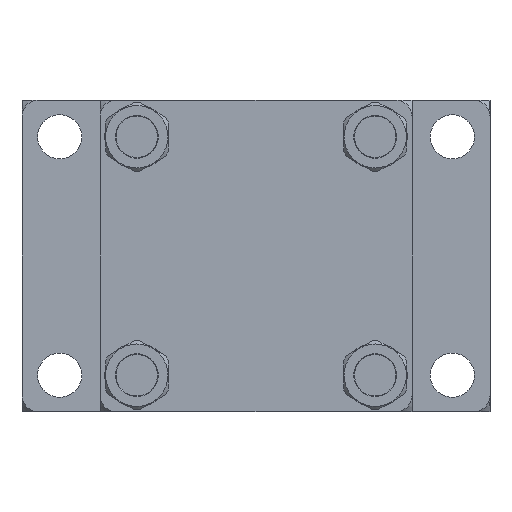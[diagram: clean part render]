
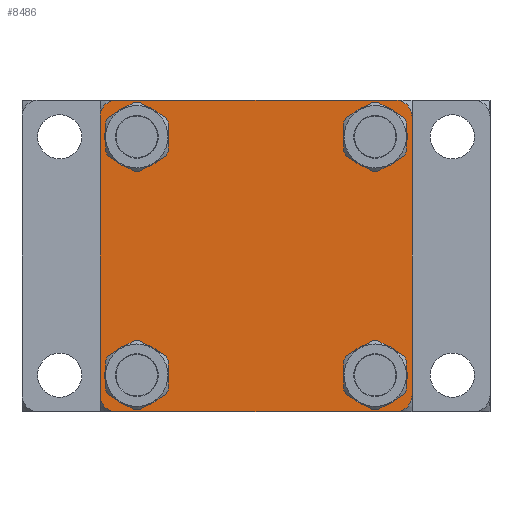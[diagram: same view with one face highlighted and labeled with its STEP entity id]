
A CAD part, left-side view. The second image highlights one B-rep face of the part: STEP entity #8486.
In plain terms, the highlighted planar face has unit normal (-1, 0, 0).
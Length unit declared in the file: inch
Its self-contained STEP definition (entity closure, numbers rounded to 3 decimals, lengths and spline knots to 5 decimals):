
#1 = VERTEX_POINT ( 'NONE', #21994 ) ;
#827 = CIRCLE ( 'NONE', #56933, 0.4 ) ;
#997 = CARTESIAN_POINT ( 'NONE',  ( -11.625, 2.363, -2.865 ) ) ;
#1723 = CARTESIAN_POINT ( 'NONE',  ( -11.625, -2.865, -2.865 ) ) ;
#2094 = VERTEX_POINT ( 'NONE', #997 ) ;
#2440 = AXIS2_PLACEMENT_3D ( 'NONE', #85569, #78416, #13208 ) ;
#2477 = CIRCLE ( 'NONE', #46406, 0.4 ) ;
#2656 = CIRCLE ( 'NONE', #77089, 0.502 ) ;
#2932 = DIRECTION ( 'NONE',  ( 0., 1., 0. ) ) ;
#3418 = ORIENTED_EDGE ( 'NONE', *, *, #86792, .T. ) ;
#3536 = VERTEX_POINT ( 'NONE', #90401 ) ;
#4714 = EDGE_LOOP ( 'NONE', ( #34019, #35225 ) ) ;
#4773 = VERTEX_POINT ( 'NONE', #12225 ) ;
#5357 = VECTOR ( 'NONE', #20439, 39.37008 ) ;
#6870 = DIRECTION ( 'NONE',  ( 0., 1., 0. ) ) ;
#7908 = VECTOR ( 'NONE', #75093, 39.37008 ) ;
#8486 = ADVANCED_FACE ( 'NONE', ( #91985, #83411, #68532, #76236, #11527 ), #18183, .F. ) ;
#8594 = CARTESIAN_POINT ( 'NONE',  ( -11.625, -2.865, 2.865 ) ) ;
#9426 = VERTEX_POINT ( 'NONE', #9838 ) ;
#9838 = CARTESIAN_POINT ( 'NONE',  ( -11.625, -3.75, -3.35 ) ) ;
#9864 = ORIENTED_EDGE ( 'NONE', *, *, #89850, .F. ) ;
#10107 = CARTESIAN_POINT ( 'NONE',  ( -11.625, -2.865, -2.865 ) ) ;
#10823 = VERTEX_POINT ( 'NONE', #11971 ) ;
#11198 = CIRCLE ( 'NONE', #71889, 0.502 ) ;
#11336 = DIRECTION ( 'NONE',  ( 1., 0., 0. ) ) ;
#11466 = VERTEX_POINT ( 'NONE', #26655 ) ;
#11527 = FACE_OUTER_BOUND ( 'NONE', #48115, .T. ) ;
#11915 = EDGE_CURVE ( 'NONE', #86578, #10823, #86295, .T. ) ;
#11971 = CARTESIAN_POINT ( 'NONE',  ( -11.625, -3.367, 2.865 ) ) ;
#12225 = CARTESIAN_POINT ( 'NONE',  ( -11.625, -3.35, 3.75 ) ) ;
#12866 = CARTESIAN_POINT ( 'NONE',  ( -11.625, 3.75, 3.75 ) ) ;
#13208 = DIRECTION ( 'NONE',  ( 0., -1., 0. ) ) ;
#13339 = CARTESIAN_POINT ( 'NONE',  ( -11.625, -3.367, -2.865 ) ) ;
#16107 = EDGE_LOOP ( 'NONE', ( #47939, #93301 ) ) ;
#16969 = CIRCLE ( 'NONE', #48700, 0.502 ) ;
#17066 = CARTESIAN_POINT ( 'NONE',  ( -11.625, 3.35, 3.75 ) ) ;
#17208 = ORIENTED_EDGE ( 'NONE', *, *, #82318, .F. ) ;
#18152 = DIRECTION ( 'NONE',  ( 1., 0., 0. ) ) ;
#18183 = PLANE ( 'NONE',  #53282 ) ;
#18515 = VERTEX_POINT ( 'NONE', #13339 ) ;
#19405 = CARTESIAN_POINT ( 'NONE',  ( -11.625, 2.865, 2.865 ) ) ;
#19538 = LINE ( 'NONE', #21389, #55102 ) ;
#19735 = EDGE_CURVE ( 'NONE', #3536, #18515, #82826, .T. ) ;
#19924 = VECTOR ( 'NONE', #51082, 39.37008 ) ;
#20439 = DIRECTION ( 'NONE',  ( 0., -1., 0. ) ) ;
#21389 = CARTESIAN_POINT ( 'NONE',  ( -11.625, 3.75, -3.75 ) ) ;
#21826 = EDGE_CURVE ( 'NONE', #44698, #29012, #827, .T. ) ;
#21994 = CARTESIAN_POINT ( 'NONE',  ( -11.625, 2.363, 2.865 ) ) ;
#22264 = CIRCLE ( 'NONE', #54139, 0.502 ) ;
#22265 = EDGE_CURVE ( 'NONE', #38016, #67312, #43343, .T. ) ;
#24280 = CARTESIAN_POINT ( 'NONE',  ( -11.625, 3.367, -2.865 ) ) ;
#25224 = ORIENTED_EDGE ( 'NONE', *, *, #56145, .F. ) ;
#25275 = DIRECTION ( 'NONE',  ( 1., 0., 0. ) ) ;
#26158 = DIRECTION ( 'NONE',  ( 1., 0., 0. ) ) ;
#26655 = CARTESIAN_POINT ( 'NONE',  ( -11.625, -3.75, 3.35 ) ) ;
#27317 = EDGE_CURVE ( 'NONE', #1, #62356, #11198, .T. ) ;
#27937 = CARTESIAN_POINT ( 'NONE',  ( -11.625, 2.865, -2.865 ) ) ;
#28696 = ORIENTED_EDGE ( 'NONE', *, *, #93869, .F. ) ;
#29012 = VERTEX_POINT ( 'NONE', #17066 ) ;
#31302 = CIRCLE ( 'NONE', #70826, 0.502 ) ;
#32367 = CARTESIAN_POINT ( 'NONE',  ( -11.625, 0., 0. ) ) ;
#33075 = EDGE_CURVE ( 'NONE', #39978, #2094, #16969, .T. ) ;
#33663 = CARTESIAN_POINT ( 'NONE',  ( -11.625, -2.363, 2.865 ) ) ;
#33851 = DIRECTION ( 'NONE',  ( 0., 1., 0. ) ) ;
#34019 = ORIENTED_EDGE ( 'NONE', *, *, #11915, .T. ) ;
#35225 = ORIENTED_EDGE ( 'NONE', *, *, #90649, .T. ) ;
#35534 = DIRECTION ( 'NONE',  ( 1., 0., 0. ) ) ;
#36559 = CARTESIAN_POINT ( 'NONE',  ( -11.625, -2.865, 2.865 ) ) ;
#36880 = CARTESIAN_POINT ( 'NONE',  ( -11.625, 3.75, -3.35 ) ) ;
#37521 = ORIENTED_EDGE ( 'NONE', *, *, #42092, .T. ) ;
#38016 = VERTEX_POINT ( 'NONE', #53019 ) ;
#39581 = DIRECTION ( 'NONE',  ( 0., 1., 0. ) ) ;
#39978 = VERTEX_POINT ( 'NONE', #24280 ) ;
#41749 = LINE ( 'NONE', #12866, #5357 ) ;
#42092 = EDGE_CURVE ( 'NONE', #62356, #1, #44978, .T. ) ;
#42384 = AXIS2_PLACEMENT_3D ( 'NONE', #84209, #47872, #62651 ) ;
#43343 = CIRCLE ( 'NONE', #2440, 0.4 ) ;
#43379 = DIRECTION ( 'NONE',  ( 1., 0., 0. ) ) ;
#44698 = VERTEX_POINT ( 'NONE', #48798 ) ;
#44978 = CIRCLE ( 'NONE', #93763, 0.502 ) ;
#45080 = DIRECTION ( 'NONE',  ( 0., 1., 0. ) ) ;
#46015 = DIRECTION ( 'NONE',  ( 1., 0., 0. ) ) ;
#46406 = AXIS2_PLACEMENT_3D ( 'NONE', #86704, #80494, #58020 ) ;
#47541 = DIRECTION ( 'NONE',  ( 0., 1., 0. ) ) ;
#47662 = AXIS2_PLACEMENT_3D ( 'NONE', #10107, #18152, #2932 ) ;
#47872 = DIRECTION ( 'NONE',  ( 1., 0., 0. ) ) ;
#47939 = ORIENTED_EDGE ( 'NONE', *, *, #19735, .T. ) ;
#48115 = EDGE_LOOP ( 'NONE', ( #79017, #87915, #28696, #9864, #25224, #82091, #17208, #65024 ) ) ;
#48160 = AXIS2_PLACEMENT_3D ( 'NONE', #36559, #59857, #45080 ) ;
#48570 = DIRECTION ( 'NONE',  ( 1., 0., 0. ) ) ;
#48700 = AXIS2_PLACEMENT_3D ( 'NONE', #49037, #48570, #33851 ) ;
#48798 = CARTESIAN_POINT ( 'NONE',  ( -11.625, 3.75, 3.35 ) ) ;
#49037 = CARTESIAN_POINT ( 'NONE',  ( -11.625, 2.865, -2.865 ) ) ;
#49355 = DIRECTION ( 'NONE',  ( 0., 0., 1. ) ) ;
#51082 = DIRECTION ( 'NONE',  ( 0., 0., -1. ) ) ;
#53019 = CARTESIAN_POINT ( 'NONE',  ( -11.625, 3.35, -3.75 ) ) ;
#53282 = AXIS2_PLACEMENT_3D ( 'NONE', #32367, #25275, #47541 ) ;
#54139 = AXIS2_PLACEMENT_3D ( 'NONE', #8594, #46015, #59873 ) ;
#55102 = VECTOR ( 'NONE', #49355, 39.37008 ) ;
#56145 = EDGE_CURVE ( 'NONE', #11466, #9426, #79757, .T. ) ;
#56236 = CARTESIAN_POINT ( 'NONE',  ( -11.625, -3.35, -3.75 ) ) ;
#56933 = AXIS2_PLACEMENT_3D ( 'NONE', #76169, #26158, #82420 ) ;
#57407 = DIRECTION ( 'NONE',  ( 0., 1., 0. ) ) ;
#58020 = DIRECTION ( 'NONE',  ( 0., -1., 0. ) ) ;
#58228 = CARTESIAN_POINT ( 'NONE',  ( -11.625, -3.75, 3.75 ) ) ;
#58573 = EDGE_CURVE ( 'NONE', #67312, #44698, #19538, .T. ) ;
#59857 = DIRECTION ( 'NONE',  ( 1., 0., 0. ) ) ;
#59873 = DIRECTION ( 'NONE',  ( 0., 1., 0. ) ) ;
#60000 = VERTEX_POINT ( 'NONE', #56236 ) ;
#62356 = VERTEX_POINT ( 'NONE', #82023 ) ;
#62651 = DIRECTION ( 'NONE',  ( 0., -1., 0. ) ) ;
#65024 = ORIENTED_EDGE ( 'NONE', *, *, #21826, .F. ) ;
#65223 = CIRCLE ( 'NONE', #42384, 0.4 ) ;
#67312 = VERTEX_POINT ( 'NONE', #36880 ) ;
#68532 = FACE_BOUND ( 'NONE', #16107, .T. ) ;
#69865 = EDGE_LOOP ( 'NONE', ( #37521, #79102 ) ) ;
#70826 = AXIS2_PLACEMENT_3D ( 'NONE', #27937, #35534, #57407 ) ;
#71889 = AXIS2_PLACEMENT_3D ( 'NONE', #19405, #11336, #90424 ) ;
#72311 = EDGE_CURVE ( 'NONE', #18515, #3536, #2656, .T. ) ;
#75093 = DIRECTION ( 'NONE',  ( 0., 1., 0. ) ) ;
#75576 = CARTESIAN_POINT ( 'NONE',  ( -11.625, -3.75, -3.75 ) ) ;
#76169 = CARTESIAN_POINT ( 'NONE',  ( -11.625, 3.35, 3.35 ) ) ;
#76236 = FACE_BOUND ( 'NONE', #82039, .T. ) ;
#77089 = AXIS2_PLACEMENT_3D ( 'NONE', #1723, #90293, #39581 ) ;
#78416 = DIRECTION ( 'NONE',  ( 1., 0., 0. ) ) ;
#79017 = ORIENTED_EDGE ( 'NONE', *, *, #58573, .F. ) ;
#79102 = ORIENTED_EDGE ( 'NONE', *, *, #27317, .T. ) ;
#79757 = LINE ( 'NONE', #58228, #19924 ) ;
#80162 = CARTESIAN_POINT ( 'NONE',  ( -11.625, 2.865, 2.865 ) ) ;
#80494 = DIRECTION ( 'NONE',  ( 1., 0., 0. ) ) ;
#82023 = CARTESIAN_POINT ( 'NONE',  ( -11.625, 3.367, 2.865 ) ) ;
#82039 = EDGE_LOOP ( 'NONE', ( #87329, #3418 ) ) ;
#82091 = ORIENTED_EDGE ( 'NONE', *, *, #86436, .F. ) ;
#82318 = EDGE_CURVE ( 'NONE', #29012, #4773, #41749, .T. ) ;
#82420 = DIRECTION ( 'NONE',  ( 0., -1., 0. ) ) ;
#82775 = LINE ( 'NONE', #75576, #7908 ) ;
#82826 = CIRCLE ( 'NONE', #47662, 0.502 ) ;
#83411 = FACE_BOUND ( 'NONE', #4714, .T. ) ;
#84209 = CARTESIAN_POINT ( 'NONE',  ( -11.625, -3.35, -3.35 ) ) ;
#85569 = CARTESIAN_POINT ( 'NONE',  ( -11.625, 3.35, -3.35 ) ) ;
#86295 = CIRCLE ( 'NONE', #48160, 0.502 ) ;
#86436 = EDGE_CURVE ( 'NONE', #4773, #11466, #2477, .T. ) ;
#86578 = VERTEX_POINT ( 'NONE', #33663 ) ;
#86704 = CARTESIAN_POINT ( 'NONE',  ( -11.625, -3.35, 3.35 ) ) ;
#86792 = EDGE_CURVE ( 'NONE', #2094, #39978, #31302, .T. ) ;
#87329 = ORIENTED_EDGE ( 'NONE', *, *, #33075, .T. ) ;
#87915 = ORIENTED_EDGE ( 'NONE', *, *, #22265, .F. ) ;
#89850 = EDGE_CURVE ( 'NONE', #9426, #60000, #65223, .T. ) ;
#90293 = DIRECTION ( 'NONE',  ( 1., 0., 0. ) ) ;
#90401 = CARTESIAN_POINT ( 'NONE',  ( -11.625, -2.363, -2.865 ) ) ;
#90424 = DIRECTION ( 'NONE',  ( 0., 1., 0. ) ) ;
#90649 = EDGE_CURVE ( 'NONE', #10823, #86578, #22264, .T. ) ;
#91985 = FACE_BOUND ( 'NONE', #69865, .T. ) ;
#93301 = ORIENTED_EDGE ( 'NONE', *, *, #72311, .T. ) ;
#93763 = AXIS2_PLACEMENT_3D ( 'NONE', #80162, #43379, #6870 ) ;
#93869 = EDGE_CURVE ( 'NONE', #60000, #38016, #82775, .T. ) ;
